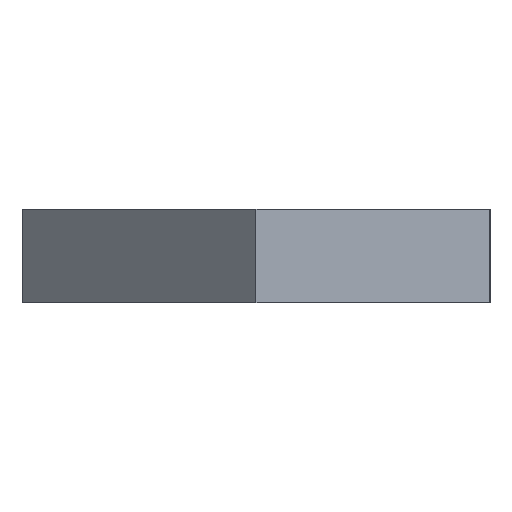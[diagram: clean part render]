
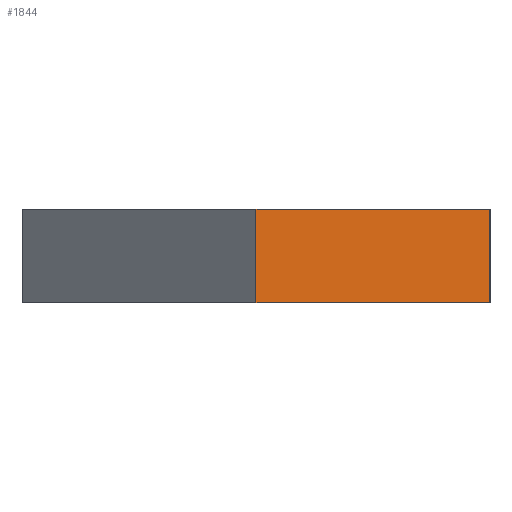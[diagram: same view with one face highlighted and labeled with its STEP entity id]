
A CAD part, left-side view. The second image highlights one B-rep face of the part: STEP entity #1844.
In plain terms, the highlighted planar face has unit normal (-0.707, -0.707, 0).
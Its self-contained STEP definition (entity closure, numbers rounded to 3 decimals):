
#181 = EDGE_LOOP ( 'NONE', ( #1083, #3028, #3030, #1088 ) ) ;
#305 = VERTEX_POINT ( 'NONE', #2267 ) ;
#314 = VERTEX_POINT ( 'NONE', #2285 ) ;
#346 = VERTEX_POINT ( 'NONE', #2381 ) ;
#348 = VERTEX_POINT ( 'NONE', #2341 ) ;
#383 = VECTOR ( 'NONE', #2390, 1000. ) ;
#384 = LINE ( 'NONE', #2436, #391 ) ;
#391 = VECTOR ( 'NONE', #2437, 1000. ) ;
#415 = LINE ( 'NONE', #2418, #383 ) ;
#425 = VECTOR ( 'NONE', #2517, 1000. ) ;
#446 = LINE ( 'NONE', #2537, #425 ) ;
#468 = LINE ( 'NONE', #2518, #472 ) ;
#472 = VECTOR ( 'NONE', #2519, 1000. ) ;
#889 = FACE_OUTER_BOUND ( 'NONE', #181, .T. ) ;
#1083 = ORIENTED_EDGE ( 'NONE', *, *, #1136, .T. ) ;
#1088 = ORIENTED_EDGE ( 'NONE', *, *, #1127, .F. ) ;
#1127 = EDGE_CURVE ( 'NONE', #305, #314, #415, .T. ) ;
#1136 = EDGE_CURVE ( 'NONE', #305, #346, #384, .T. ) ;
#1163 = EDGE_CURVE ( 'NONE', #348, #346, #446, .T. ) ;
#1173 = EDGE_CURVE ( 'NONE', #348, #314, #468, .T. ) ;
#1421 = AXIS2_PLACEMENT_3D ( 'NONE', #2013, #2016, #2027 ) ;
#1844 = ADVANCED_FACE ( 'NONE', ( #889 ), #2026, .F. ) ;
#2013 = CARTESIAN_POINT ( 'NONE',  ( -350.5, 0., 0. ) ) ;
#2016 = DIRECTION ( 'NONE',  ( 0.707, 0.707, 0. ) ) ;
#2026 = PLANE ( 'NONE',  #1421 ) ;
#2027 = DIRECTION ( 'NONE',  ( -0.707, 0.707, 0. ) ) ;
#2267 = CARTESIAN_POINT ( 'NONE',  ( -345.5, -5., 2. ) ) ;
#2285 = CARTESIAN_POINT ( 'NONE',  ( -345.5, -5., 0. ) ) ;
#2341 = CARTESIAN_POINT ( 'NONE',  ( -350.5, 0., 0. ) ) ;
#2381 = CARTESIAN_POINT ( 'NONE',  ( -350.5, 0., 2. ) ) ;
#2390 = DIRECTION ( 'NONE',  ( 0., 0., -1. ) ) ;
#2418 = CARTESIAN_POINT ( 'NONE',  ( -345.5, -5., 2. ) ) ;
#2436 = CARTESIAN_POINT ( 'NONE',  ( -350.5, 0., 2. ) ) ;
#2437 = DIRECTION ( 'NONE',  ( -0.707, 0.707, 0. ) ) ;
#2517 = DIRECTION ( 'NONE',  ( 0., 0., 1. ) ) ;
#2518 = CARTESIAN_POINT ( 'NONE',  ( -175.25, -175.25, 0. ) ) ;
#2519 = DIRECTION ( 'NONE',  ( 0.707, -0.707, 0. ) ) ;
#2537 = CARTESIAN_POINT ( 'NONE',  ( -350.5, 0., 0. ) ) ;
#3028 = ORIENTED_EDGE ( 'NONE', *, *, #1163, .F. ) ;
#3030 = ORIENTED_EDGE ( 'NONE', *, *, #1173, .T. ) ;
